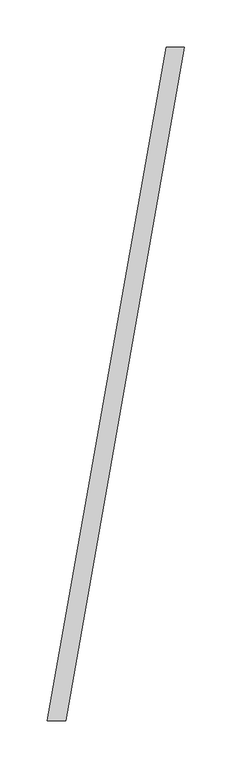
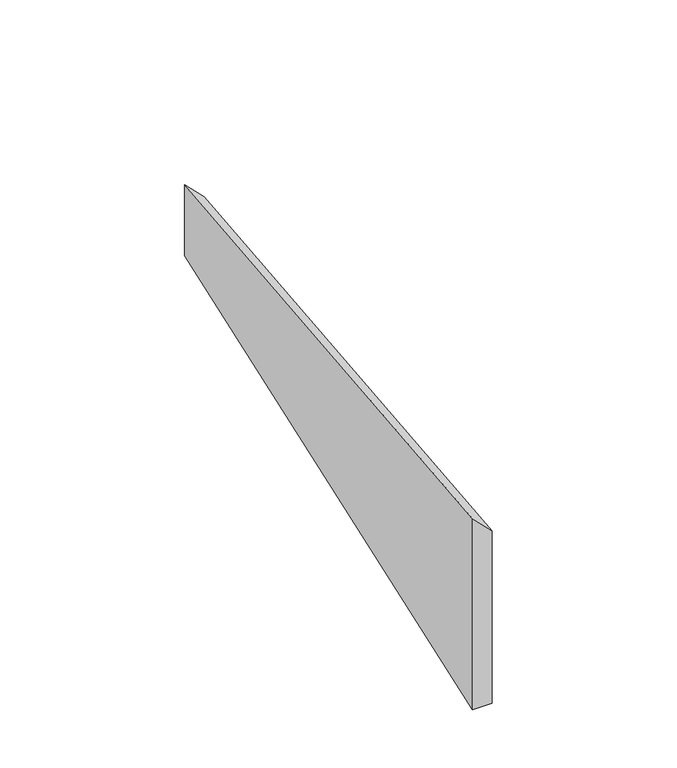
"""IFC4 building model written with IfcOpenShell, lengths in millimetres: proxy geometry, GRADIENT^TABLE 7_PYRAMID BASES-CTR BASE RIGHT WING."""

from ifc_helpers import new_model, si_unit, origin, place, context, project, spatial, faceted_brep, source, transform, mapped, element, save


def generic_models_e4cfc86e(model_context):
    return source(origin(), model_context, "Body", "Brep", [
        faceted_brep([(2030.4037487, 0.0, -657.225), (2030.4037487, 0.0, -582.6037487), (2049.7476256, 0.0, -601.9476256), (2049.7476256, 0.0, -657.225), (1924.343877, -711.2, -476.543877), (1924.343877, -711.2, -657.225), (1905.0, -711.2, -657.225), (1905.0, -711.2, -457.2)], [[[0, 1, 2, 3]], [[3, 2, 4, 5]], [[3, 5, 6, 0]], [[1, 0, 6, 7]], [[6, 5, 4, 7]], [[1, 7, 4, 2]]]),
    ])


if __name__ == "__main__":
    model = new_model("IFC4")
    model_context = context("Model", 3, world=origin())
    ifc_project = project(units=[si_unit("LENGTHUNIT", "METRE", prefix="MILLI")], contexts=[model_context])
    site = spatial("IfcSite", under=ifc_project)
    building = spatial("IfcBuilding", under=site)
    placement = place(None, origin())
    generic_models_shape = generic_models_e4cfc86e(model_context)
    element("IfcBuildingElementProxy", 1, Name="GRADIENT^TABLE 7_PYRAMID BASES-CTR BASE RIGHT WING", ObjectType="GRADIENT^TABLE 7_PYRAMID BASES-CTR BASE RIGHT WING", at=placement, inside=building, context=model_context, shape_type="MappedRepresentation", body=[
        mapped(generic_models_shape, transform((0.0, 0.0, 0.0), x_axis=(1.0, 0.0, 0.0), y_axis=(0.0, 1.0, 0.0), z_axis=(0.0, 0.0, 1.0))),
    ])
    save(model, "model.ifc")
